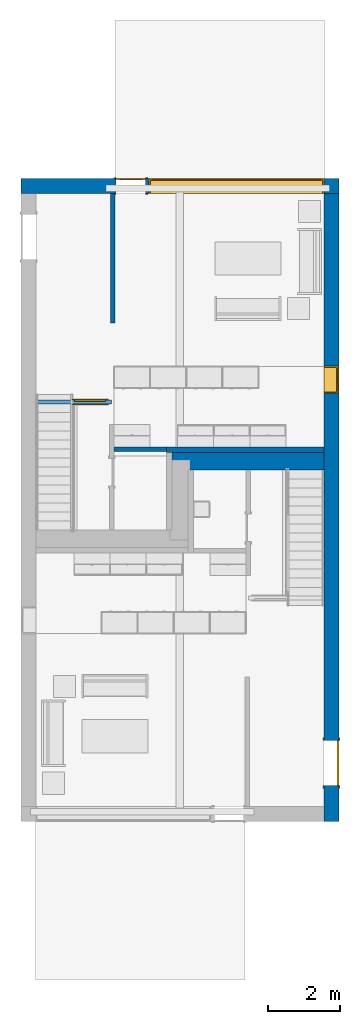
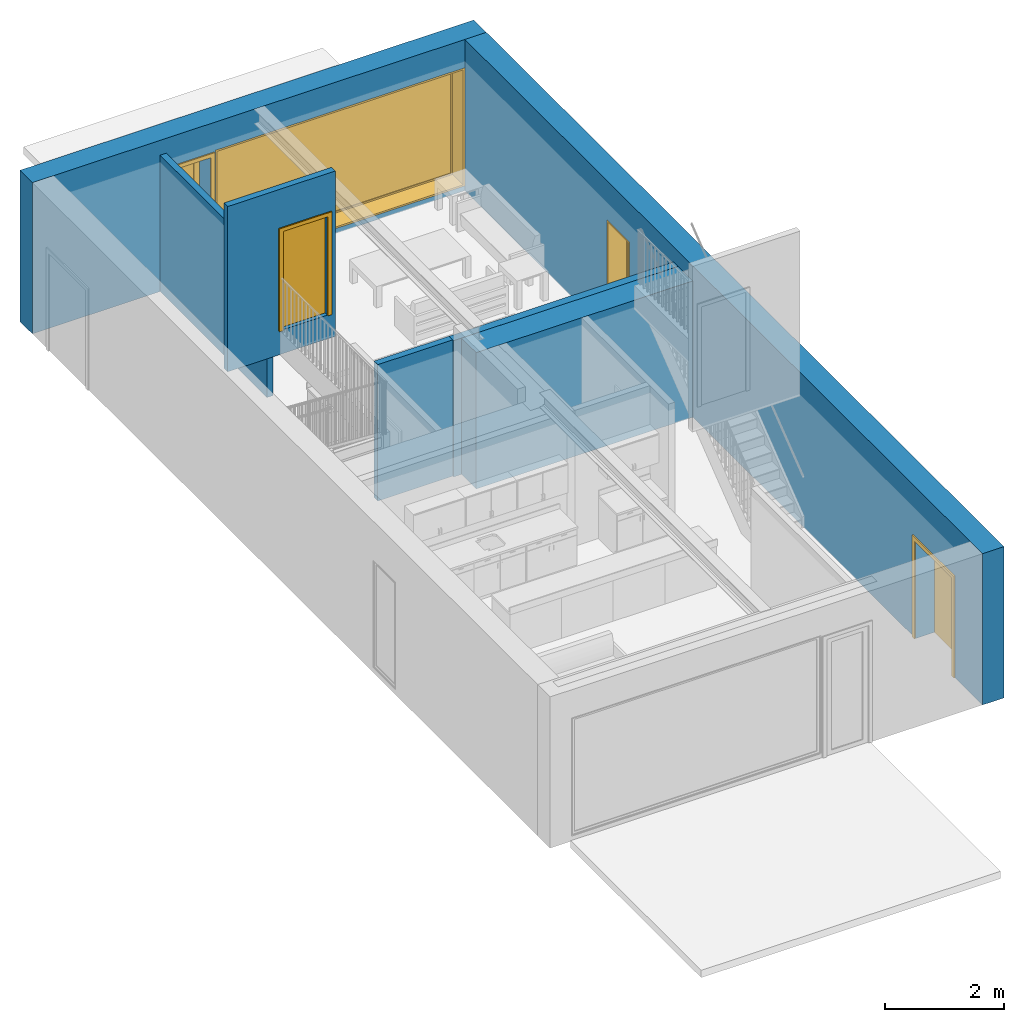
"""IFC4 building model written with IfcOpenShell, lengths in metres."""

from ifc_helpers import new_model, entity, si_unit, converted_unit, frame, frame_2d, origin, origin_2d_with_axis, place, context, project, spatial, polyline, rectangle, outline, extrude, clip, bounded_halfspace, source, transform, mapped, material, layer, layer_set, layer_usage, type_object, type_shapes, element, fill, save


model = new_model("IFC4")

# Units and contexts
model_context = context("Model", 3, precision=1e-09, world=origin())
plan_context = context("Plan", 3, precision=1e-09, world=origin())
ifc_project = project(units=[si_unit("LENGTHUNIT", "METRE"), si_unit("AREAUNIT", "SQUARE_METRE"), si_unit("VOLUMEUNIT", "CUBIC_METRE"), converted_unit("PLANEANGLEUNIT", "DEGREE", entity("IfcRatioMeasure", 0.01745329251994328), si_unit("PLANEANGLEUNIT", "RADIAN"), dimensions=[0, 0, 0, 0, 0, 0, 0]), si_unit("TIMEUNIT", "SECOND")], contexts=[model_context, plan_context])

# Site, building, storey
site_placement = place(None, origin())
site = spatial("IfcSite", under=ifc_project, at=site_placement, Name="Default", CompositionType="ELEMENT")
building_placement = place(site_placement, origin())
building = spatial("IfcBuilding", under=site, at=building_placement, CompositionType="ELEMENT")
storey_1_placement = place(building_placement, origin())
storey_1 = spatial("IfcBuildingStorey", under=building, at=storey_1_placement, Name="Level 1", CompositionType="ELEMENT", Elevation=0.0)

# Wall, opening
ifc_material_1 = material(Name="Plasterboard")
ifc_layer_1 = layer(ifc_material_1, 0.016)
ifc_material_2 = material(Name="Metal - Stud Layer")
ifc_layer_2 = layer(ifc_material_2, 0.092)
ifc_layer_3 = layer(ifc_material_1, 0.016)
ifc_layer_set_1 = layer_set([ifc_layer_1, ifc_layer_2, ifc_layer_3], Name="Basic Wall:Interior - Partition (92mm Stud)")
ifc_layer_usage_1 = layer_usage(ifc_layer_set_1, "AXIS2", "NEGATIVE", 0.062)
wall_1_placement = place(storey_1_placement, frame((0.4169999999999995, -6.188000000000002, 2.612)))
wall_1 = element("IfcWall", 1, at=wall_1_placement, inside=storey_1, material=ifc_layer_usage_1, Name="Basic Wall:Interior - Partition (92mm Stud)", ObjectType="Basic Wall:Interior - Partition (92mm Stud)", PredefinedType="SOLIDWALL", context=model_context, shape_type="SweptSolid", body=[
    extrude(rectangle(XDim=2.089000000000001, YDim=0.124, at=frame_2d((1.0445, 0.0), x_axis=(-1.0, 0.0))), origin(), (0.0, 0.0, 1.0), 3.388000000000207),
])
opening_1_placement = place(wall_1_placement, frame((1.066299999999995, -0.06200000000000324, 0.4880000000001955)))
opening_1 = element("IfcOpeningElement", 2, at=opening_1_placement, cuts=wall_1, Name="M_Single-Flush:0864 x 2032mm:0864 x 2032mm:1", ObjectType="Opening", context=model_context, shape_type="SweptSolid", body=[
    extrude(rectangle(XDim=0.8639999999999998, YDim=2.032, at=frame_2d((1.016, 0.4319999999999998), x_axis=(0.0, 1.0))), frame((0.0, 0.0, 0.0), z_axis=(0.0, 1.0, 0.0), x_axis=(0.0, 0.0, 1.0)), (0.0, 0.0, 1.0), 0.124),
])

# Storey
storey_2_placement = place(building_placement, frame((0.0, 0.0, 3.100000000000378)))
storey_2 = spatial("IfcBuildingStorey", under=building, at=storey_2_placement, Name="Level 2", CompositionType="ELEMENT", Elevation=3.100000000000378)

# Door
door_type_1 = type_object("IfcDoorType", Name="0864 x 2032mm", OperationType="SINGLE_SWING_RIGHT", ParameterTakesPrecedence=False, PredefinedType="DOOR")
shared_shape_1 = source(origin(), model_context, "Body", "SweptSolid", [
    extrude(outline(polyline([(-0.5079999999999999, -1.072999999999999), (0.5079999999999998, -1.072999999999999), (0.5079999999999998, 1.035000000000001), (0.4319999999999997, 1.035000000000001), (0.4319999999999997, -0.9970000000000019), (-0.4319999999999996, -0.9970000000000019), (-0.4319999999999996, 1.035000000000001), (-0.5079999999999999, 1.035000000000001), (-0.5079999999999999, -1.072999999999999)])), frame((0.4320000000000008, 0.1239999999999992, 1.035000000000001), z_axis=(0.0, 1.0, 0.0), x_axis=(1.0, 0.0, 0.0)), (0.0, 0.0, 1.0), 0.02499999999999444),
    extrude(outline(polyline([(-1.073, -0.5079999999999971), (1.035, -0.5079999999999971), (1.035, -0.4320000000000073), (-0.9969999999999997, -0.4320000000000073), (-0.9969999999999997, 0.4320000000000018), (1.035, 0.4320000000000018), (1.035, 0.5080000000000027), (-1.073, 0.5080000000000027), (-1.073, -0.5079999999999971)])), frame((0.4320000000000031, -0.02500000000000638, 1.035), z_axis=(0.0, 1.0, 0.0), x_axis=(0.0, 0.0, -1.0)), (0.0, 0.0, 1.0), 0.02500000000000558),
    extrude(rectangle(XDim=0.051, YDim=0.8639999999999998, at=origin_2d_with_axis()), frame((0.4320000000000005, 0.0984999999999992, 0.0), z_axis=(0.0, 0.0, 1.0), x_axis=(0.0, 1.0, 0.0)), (0.0, 0.0, 1.0), 2.032),
])
type_shapes(door_type_1, [shared_shape_1])
door_1_placement = place(opening_1_placement, origin())
door_1 = element("IfcDoor", 3, at=door_1_placement, inside=storey_2, type_object=door_type_1, Name="M_Single-Flush:0864 x 2032mm:0864 x 2032mm", ObjectType="0864 x 2032mm", OverallHeight=2.032, OverallWidth=0.8639999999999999, context=model_context, shape_type="MappedRepresentation", body=[
    mapped(shared_shape_1, transform((0.0, 0.0, 0.0), scale=1.0)),
])

fill(opening_1, door_1)

# Walls
ifc_layer_4 = layer(ifc_material_2, 0.136)
ifc_layer_5 = layer(ifc_material_1, 0.016)
ifc_layer_set_2 = layer_set([ifc_layer_4, ifc_layer_5], Name="Basic Wall:Interior - Furring (152 mm Stud)")
ifc_layer_usage_2 = layer_usage(ifc_layer_set_2, "AXIS2", "NEGATIVE", 0.07600000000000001)
wall_2_placement = place(storey_1_placement, frame((8.382999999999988, -7.506000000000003, 0.0), z_axis=(0.0, 0.0, 1.0), x_axis=(-1.0, 0.0, 0.0)))
element("IfcWall", 4, at=wall_2_placement, inside=storey_1, material=ifc_layer_usage_2, Name="Basic Wall:Interior - Furring (152 mm Stud)", ObjectType="Basic Wall:Interior - Furring (152 mm Stud)", PredefinedType="SOLIDWALL", context=model_context, shape_type="Clipping", body=[
    clip(extrude(rectangle(XDim=4.352999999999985, YDim=0.1520000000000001, at=frame_2d((2.176499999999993, 0.0), x_axis=(-1.0, 0.0))), origin(), (0.0, 0.0, 1.0), 2.795000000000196), bounded_halfspace(frame((0.0, -0.07600000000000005, 2.795000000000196), z_axis=(0.0, 0.0, -1.0), x_axis=(0.0, 1.0, 0.0)), True, frame((0.0, -0.07600000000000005, 2.795000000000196)), polyline([(0.0, 0.0), (3.707999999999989, 0.0), (3.707999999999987, 0.1520000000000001), (0.0, 0.1520000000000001), (0.0, 0.0)]))),
])
ifc_layer_usage_3 = layer_usage(ifc_layer_set_1, "AXIS2", "NEGATIVE", 0.062)
wall_3_placement = place(storey_1_placement, frame((4.030000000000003, -7.491999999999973, 0.0), z_axis=(0.0, 0.0, 1.0), x_axis=(-1.0, 0.0, 0.0)))
element("IfcWall", 5, at=wall_3_placement, inside=storey_1, material=ifc_layer_usage_3, Name="Basic Wall:Interior - Partition (92mm Stud)", ObjectType="Basic Wall:Interior - Partition (92mm Stud)", PredefinedType="SOLIDWALL", context=model_context, shape_type="SweptSolid", body=[
    extrude(rectangle(XDim=1.456000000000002, YDim=0.124, at=frame_2d((0.728000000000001, 0.0), x_axis=(-1.0, 0.0))), origin(), (0.0, 0.0, 1.0), 2.795000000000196),
])
ifc_layer_6 = layer(ifc_material_1, 0.016)
ifc_layer_7 = layer(ifc_material_2, 0.041)
ifc_material_3 = material(Name="Masonry - Concrete Block")
ifc_layer_8 = layer(ifc_material_3, 0.193)
ifc_material_4 = material(Name="Misc. Air Layers - Air Space")
ifc_layer_9 = layer(ifc_material_4, 0.05)
ifc_layer_10 = layer(ifc_material_3, 0.193)
ifc_layer_11 = layer(ifc_material_2, 0.041)
ifc_layer_12 = layer(ifc_material_1, 0.016)
ifc_layer_set_3 = layer_set([ifc_layer_6, ifc_layer_7, ifc_layer_8, ifc_layer_9, ifc_layer_10, ifc_layer_11, ifc_layer_12], Name="Basic Wall:Party Wall - CMU Residential Unit Dimising Wall")
ifc_layer_usage_4 = layer_usage(ifc_layer_set_3, "AXIS2", "NEGATIVE", 0.2750000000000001)
wall_4_placement = place(storey_1_placement, frame((8.382999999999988, -7.800000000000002, 0.0), z_axis=(0.0, 0.0, 1.0), x_axis=(-1.0, 0.0, 0.0)))
element("IfcWall", 6, at=wall_4_placement, inside=storey_1, material=ifc_layer_usage_4, Name="Basic Wall:Party Wall - CMU Residential Unit Dimising Wall", ObjectType="Basic Wall:Party Wall - CMU Residential Unit Dimising Wall", PredefinedType="SOLIDWALL", context=model_context, shape_type="Clipping", body=[
    clip(clip(extrude(rectangle(XDim=4.200999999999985, YDim=0.5500000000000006, at=frame_2d((2.100499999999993, 0.0), x_axis=(-1.0, 0.0))), origin(), (0.0, 0.0, 1.0), 2.795000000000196), bounded_halfspace(frame((0.0, -0.2180000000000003, 2.795000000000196), z_axis=(0.0, 1.0, 0.0), x_axis=(-1.0, 0.0, 0.0)), True, frame((0.0, -0.2180000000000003, 2.795000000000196), z_axis=(0.0, 1.0, 0.0), x_axis=(-1.0, 0.0, 0.0)), polyline([(0.0, 0.0), (-3.707999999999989, 0.0), (-4.200999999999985, 0.0), (-4.200999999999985, -2.795000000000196), (0.0, -2.795000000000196), (0.0, 0.0)]))), bounded_halfspace(frame((4.200999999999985, 0.2750000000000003, 0.0), z_axis=(-1.0, 0.0, 0.0), x_axis=(0.0, -1.0, 0.0)), True, frame((4.200999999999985, 0.2750000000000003, 0.0), z_axis=(-1.0, 0.0, 0.0), x_axis=(0.0, -1.0, 0.0)), polyline([(0.0, 0.0), (0.4930000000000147, 0.0), (0.4930000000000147, 2.795000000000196), (0.0, 2.795000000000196), (0.0, 0.0)]))),
])

# Wall, openings, door, window
ifc_material_5 = material(Name="Masonry - Brick")
ifc_layer_13 = layer(ifc_material_5, 0.092)
ifc_layer_14 = layer(ifc_material_4, 0.025)
ifc_material_6 = material(Name="Insulation / Thermal Barriers - Rigid insulation")
ifc_layer_15 = layer(ifc_material_6, 0.05)
ifc_layer_16 = layer(ifc_material_3, 0.193)
ifc_layer_17 = layer(ifc_material_2, 0.041)
ifc_layer_18 = layer(ifc_material_1, 0.016)
ifc_layer_set_4 = layer_set([ifc_layer_13, ifc_layer_14, ifc_layer_15, ifc_layer_16, ifc_layer_17, ifc_layer_18], Name="Basic Wall:Exterior - Brick on Block")
ifc_layer_usage_5 = layer_usage(ifc_layer_set_4, "AXIS2", "NEGATIVE", 0.2085000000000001)
wall_5_placement = place(storey_1_placement, frame((0.0, -0.2085000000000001, 0.0)))
wall_5 = element("IfcWall", 7, at=wall_5_placement, inside=storey_1, material=ifc_layer_usage_5, Name="Basic Wall:Exterior - Brick on Block", ObjectType="Basic Wall:Exterior - Brick on Block", PredefinedType="SOLIDWALL", context=model_context, shape_type="SweptSolid", body=[
    extrude(rectangle(XDim=8.800000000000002, YDim=0.4170000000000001, at=frame_2d((4.400000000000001, 0.0), x_axis=(-1.0, 0.0))), origin(), (0.0, 0.0, 1.0), 3.100000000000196),
])
opening_2_placement = place(wall_5_placement, frame((2.634969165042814, -0.2084999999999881, 0.0)))
opening_2 = element("IfcOpeningElement", 8, at=opening_2_placement, cuts=wall_5, Name="M_Single-Glass 1:0813 x 2420mm:0813 x 2420mm:1", ObjectType="Opening", context=model_context, shape_type="SweptSolid", body=[
    extrude(rectangle(XDim=0.8129999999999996, YDim=2.42, at=frame_2d((1.21, 0.4065000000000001), x_axis=(0.0, -1.0))), frame((0.0, 0.0, 0.0), z_axis=(0.0, 1.0, 0.0), x_axis=(0.0, 0.0, 1.0)), (0.0, 0.0, 1.0), 0.4170000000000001),
])
opening_3_placement = place(wall_5_placement, frame((3.548000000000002, -0.2085000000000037, 0.1000000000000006)))
opening_3 = element("IfcOpeningElement", 9, at=opening_3_placement, cuts=wall_5, Name="M_Fixed:4835mm x 2420mm:4835mm x 2420mm:1", ObjectType="Opening", context=model_context, shape_type="SweptSolid", body=[
    extrude(rectangle(XDim=2.419999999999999, YDim=4.834999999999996, at=frame_2d((1.209999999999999, 2.417499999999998), x_axis=(1.0, 0.0))), frame((0.0, 0.0, 0.0), z_axis=(0.0, 1.0, 0.0), x_axis=(0.0, 0.0, 1.0)), (0.0, 0.0, 1.0), 0.4170000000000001),
])
door_type_2 = type_object("IfcDoorType", Name="0813 x 2420mm", OperationType="SINGLE_SWING_LEFT", ParameterTakesPrecedence=False, PredefinedType="DOOR")
shared_shape_2 = source(origin(), model_context, "Body", "SweptSolid", [
    extrude(outline(polyline([(-0.4065000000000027, -1.191), (-0.4065000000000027, 1.229), (-0.4824999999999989, 1.229), (-0.4824999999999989, -1.267), (0.4825000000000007, -1.267), (0.4825000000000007, 1.229), (0.4065000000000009, 1.229), (0.4065000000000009, -1.191), (-0.4065000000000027, -1.191)])), frame((0.4065, 0.0, 1.229), z_axis=(0.0, 1.0, 0.0), x_axis=(1.0, 0.0, 0.0)), (0.0, 0.0, -1.0), 0.025),
    extrude(outline(polyline([(-0.4065000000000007, -1.191), (-0.4065000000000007, 1.228999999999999), (-0.4824999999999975, 1.228999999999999), (-0.4824999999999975, -1.267), (0.4824999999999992, -1.267), (0.4824999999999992, 1.228999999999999), (0.4064999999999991, 1.228999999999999), (0.4064999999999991, -1.191), (-0.4065000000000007, -1.191)])), frame((0.4065000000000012, 0.4420000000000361, 1.228999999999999), z_axis=(0.0, 1.0, 0.0), x_axis=(1.0, 0.0, 0.0)), (0.0, 0.0, -1.0), 0.02500000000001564),
    extrude(rectangle(XDim=0.6089999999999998, YDim=0.006350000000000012, at=origin_2d_with_axis()), frame((0.4065000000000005, 0.3916000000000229, 0.1020000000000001)), (0.0, 0.0, 1.0), 2.215999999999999),
    extrude(outline(polyline([(-1.21, -0.4064999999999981), (1.21, -0.4064999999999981), (1.21, 0.4064999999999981), (-1.21, 0.4064999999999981), (-1.21, -0.4064999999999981)]), holes=[polyline([(-1.108, 0.3044999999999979), (1.107999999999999, 0.3044999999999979), (1.107999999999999, -0.3045000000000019), (-1.108, -0.3045000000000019), (-1.108, 0.3044999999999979)])]), frame((0.4065000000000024, 0.4170000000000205, 1.21), z_axis=(0.0, -1.0, 0.0), x_axis=(0.0, 0.0, -1.0)), (0.0, 0.0, 1.0), 0.05100000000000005),
])
type_shapes(door_type_2, [shared_shape_2])
door_2_placement = place(opening_2_placement, origin())
door_2 = element("IfcDoor", 10, at=door_2_placement, inside=storey_1, type_object=door_type_2, Name="M_Single-Glass 1:0813 x 2420mm:0813 x 2420mm", ObjectType="0813 x 2420mm", OverallHeight=2.42, OverallWidth=0.8129999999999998, context=model_context, shape_type="MappedRepresentation", body=[
    mapped(shared_shape_2, transform((0.0, 0.0, 0.0), scale=1.0)),
])
fill(opening_2, door_2)
window_type_1 = type_object("IfcWindowType", Name="4835mm x 2420mm", ParameterTakesPrecedence=False, PartitioningType="NOTDEFINED", PredefinedType="WINDOW")
shared_shape_3 = source(origin(), model_context, "Body", "SweptSolid", [
    extrude(rectangle(XDim=0.01199999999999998, YDim=4.708999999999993, at=origin_2d_with_axis()), frame((2.417500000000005, 0.3759999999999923, 0.06299999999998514), z_axis=(0.0, 0.0, 1.0), x_axis=(0.0, -1.0, 0.0)), (0.0, 0.0, 1.0), 2.294000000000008),
    extrude(outline(polyline([(-2.398499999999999, -1.191000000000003), (2.398499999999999, -1.191000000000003), (2.398499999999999, 1.191000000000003), (-2.398499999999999, 1.191000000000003), (-2.398499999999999, -1.191000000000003)]), holes=[polyline([(-2.354499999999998, -1.147000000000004), (-2.354499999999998, 1.147000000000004), (2.354499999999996, 1.147000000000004), (2.354499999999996, -1.147000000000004), (-2.354499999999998, -1.147000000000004)])]), frame((2.417500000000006, 0.3539999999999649, 1.20999999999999), z_axis=(0.0, 1.0, 0.0), x_axis=(1.0, 0.0, 0.0)), (0.0, 0.0, 1.0), 0.04400000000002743),
    extrude(outline(polyline([(-2.417499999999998, -1.209999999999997), (2.417499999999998, -1.209999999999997), (2.417499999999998, 1.209999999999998), (-2.417499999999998, 1.209999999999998), (-2.417499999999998, -1.209999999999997)]), holes=[polyline([(-2.3985, -1.190999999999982), (-2.3985, 1.191000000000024), (2.398499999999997, 1.191000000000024), (2.398499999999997, -1.190999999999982), (-2.3985, -1.190999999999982)])]), frame((2.417500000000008, 0.3539999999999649, 1.21000000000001), z_axis=(0.0, 1.0, 0.0), x_axis=(1.0, 0.0, 0.0)), (0.0, 0.0, 1.0), 0.06300000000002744),
    extrude(outline(polyline([(-2.417499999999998, -1.209999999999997), (2.417499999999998, -1.209999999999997), (2.417499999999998, 1.209999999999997), (-2.417499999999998, 1.209999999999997), (-2.417499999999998, -1.209999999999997)]), holes=[polyline([(-2.385499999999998, -1.177999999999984), (-2.385499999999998, 1.178000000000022), (2.385499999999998, 1.178000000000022), (2.385499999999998, -1.177999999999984), (-2.385499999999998, -1.177999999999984)])]), frame((2.417500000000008, 0.0, 1.21000000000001), z_axis=(0.0, 1.0, 0.0), x_axis=(1.0, 0.0, 0.0)), (0.0, 0.0, 1.0), 0.3539999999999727),
])
type_shapes(window_type_1, [shared_shape_3])
window_1_placement = place(opening_3_placement, origin())
window_1 = element("IfcWindow", 11, at=window_1_placement, inside=storey_1, type_object=window_type_1, Name="M_Fixed:4835mm x 2420mm:4835mm x 2420mm", ObjectType="4835mm x 2420mm", OverallHeight=2.419999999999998, OverallWidth=4.834999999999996, context=model_context, shape_type="MappedRepresentation", body=[
    mapped(shared_shape_3, transform((0.0, 0.0, 0.0), scale=1.0)),
])
fill(opening_3, window_1)

ifc_layer_usage_6 = layer_usage(ifc_layer_set_4, "AXIS2", "NEGATIVE", 0.2085000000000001)
wall_6_placement = place(storey_1_placement, frame((8.5915, -0.4170000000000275, 0.0), z_axis=(0.0, 0.0, 1.0), x_axis=(0.0, -1.0, 0.0)))
wall_6 = element("IfcWall", 12, at=wall_6_placement, inside=storey_1, material=ifc_layer_usage_6, Name="Basic Wall:Exterior - Brick on Block", ObjectType="Basic Wall:Exterior - Brick on Block", PredefinedType="SOLIDWALL", context=model_context, shape_type="SweptSolid", body=[
    extrude(rectangle(XDim=17.38299999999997, YDim=0.4170000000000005, at=frame_2d((8.691499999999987, 0.0), x_axis=(-1.0, 0.0))), origin(), (0.0, 0.0, 1.0), 3.100000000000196),
])
opening_4_placement = place(wall_6_placement, frame((4.777999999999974, -0.2085000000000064, 0.1000000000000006)))
opening_4 = element("IfcOpeningElement", 13, at=opening_4_placement, cuts=wall_6, Name="M_Fixed:750mm x 2200mm:750mm x 2200mm:1", ObjectType="Opening", context=model_context, shape_type="SweptSolid", body=[
    extrude(rectangle(XDim=2.199999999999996, YDim=0.7499999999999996, at=frame_2d((1.099999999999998, 0.3749999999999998), x_axis=(1.0, 0.0))), frame((0.0, 0.0, 0.0), z_axis=(0.0, 1.0, 0.0), x_axis=(0.0, 0.0, 1.0)), (0.0, 0.0, 1.0), 0.4170000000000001),
])
opening_5_placement = place(wall_6_placement, frame((15.13599999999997, -0.2085000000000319, 0.0)))
opening_5 = element("IfcOpeningElement", 14, at=opening_5_placement, cuts=wall_6, Name="M_Single-Flush:1250mm x 2010mm:1250mm x 2010mm:1", ObjectType="Opening", context=model_context, shape_type="SweptSolid", body=[
    extrude(rectangle(XDim=1.249999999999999, YDim=2.009999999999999, at=frame_2d((1.005, 0.6249999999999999), x_axis=(0.0, 1.0))), frame((0.0, 0.0, 0.0), z_axis=(0.0, 1.0, 0.0), x_axis=(0.0, 0.0, 1.0)), (0.0, 0.0, 1.0), 0.4170000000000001),
])
door_type_3 = type_object("IfcDoorType", Name="1250mm x 2010mm", OperationType="SINGLE_SWING_RIGHT", ParameterTakesPrecedence=False, PredefinedType="DOOR")
shared_shape_4 = source(origin(), model_context, "Body", "SweptSolid", [
    extrude(outline(polyline([(-0.7009999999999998, -1.061999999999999), (0.7009999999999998, -1.061999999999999), (0.7009999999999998, 1.024), (0.6249999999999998, 1.024), (0.6249999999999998, -0.9860000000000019), (-0.6249999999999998, -0.9860000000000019), (-0.6249999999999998, 1.024), (-0.7009999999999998, 1.024), (-0.7009999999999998, -1.061999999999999)])), frame((0.6250000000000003, 0.4169999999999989, 1.024), z_axis=(0.0, 1.0, 0.0), x_axis=(1.0, 0.0, 0.0)), (0.0, 0.0, 1.0), 0.02499999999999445),
    extrude(outline(polyline([(-1.062, -0.7009999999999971), (1.024, -0.7009999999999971), (1.024, -0.6250000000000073), (-0.9859999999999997, -0.6250000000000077), (-0.9859999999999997, 0.6250000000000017), (1.024, 0.6250000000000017), (1.024, 0.7010000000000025), (-1.062, 0.7010000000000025), (-1.062, -0.7009999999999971)])), frame((0.6250000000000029, -0.02500000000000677, 1.024), z_axis=(0.0, 1.0, 0.0), x_axis=(0.0, 0.0, -1.0)), (0.0, 0.0, 1.0), 0.02500000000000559),
    extrude(rectangle(XDim=0.05100000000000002, YDim=1.25, at=origin_2d_with_axis()), frame((0.6250000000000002, 0.3914999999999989, 0.0), z_axis=(0.0, 0.0, 1.0), x_axis=(0.0, 1.0, 0.0)), (0.0, 0.0, 1.0), 2.009999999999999),
])
type_shapes(door_type_3, [shared_shape_4])
door_3_placement = place(opening_5_placement, origin())
door_3 = element("IfcDoor", 15, at=door_3_placement, inside=storey_1, type_object=door_type_3, Name="M_Single-Flush:1250mm x 2010mm:1250mm x 2010mm", ObjectType="1250mm x 2010mm", OverallHeight=2.009999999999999, OverallWidth=1.25, context=model_context, shape_type="MappedRepresentation", body=[
    mapped(shared_shape_4, transform((0.0, 0.0, 0.0), scale=1.0)),
])
fill(opening_5, door_3)
window_type_2 = type_object("IfcWindowType", Name="750mm x 2200mm", ParameterTakesPrecedence=False, PartitioningType="NOTDEFINED", PredefinedType="WINDOW")
shared_shape_5 = source(origin(), model_context, "Body", "SweptSolid", [
    extrude(rectangle(XDim=0.01199999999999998, YDim=0.623999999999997, at=origin_2d_with_axis()), frame((0.375000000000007, 0.3759999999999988, 0.06299999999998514), z_axis=(0.0, 0.0, 1.0), x_axis=(0.0, -1.0, 0.0)), (0.0, 0.0, 1.0), 2.074000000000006),
    extrude(outline(polyline([(-0.3559999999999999, -1.081000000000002), (0.3559999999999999, -1.081000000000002), (0.3559999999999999, 1.081000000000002), (-0.3559999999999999, 1.081000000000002), (-0.3559999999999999, -1.081000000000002)]), holes=[polyline([(-0.3119999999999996, -1.037000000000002), (-0.3119999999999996, 1.037000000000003), (0.3119999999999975, 1.037000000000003), (0.3119999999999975, -1.037000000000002), (-0.3119999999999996, -1.037000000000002)])]), frame((0.3750000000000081, 0.3539999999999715, 1.099999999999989), z_axis=(0.0, 1.0, 0.0), x_axis=(1.0, 0.0, 0.0)), (0.0, 0.0, 1.0), 0.04400000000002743),
    extrude(outline(polyline([(-0.3749999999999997, -1.099999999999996), (0.3749999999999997, -1.099999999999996), (0.3749999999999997, 1.099999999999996), (-0.3749999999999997, 1.099999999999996), (-0.3749999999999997, -1.099999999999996)]), holes=[polyline([(-0.3560000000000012, -1.080999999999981), (-0.3560000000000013, 1.081000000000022), (0.3559999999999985, 1.081000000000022), (0.3559999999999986, -1.080999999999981), (-0.3560000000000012, -1.080999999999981)])]), frame((0.3750000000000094, 0.3539999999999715, 1.100000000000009), z_axis=(0.0, 1.0, 0.0), x_axis=(1.0, 0.0, 0.0)), (0.0, 0.0, 1.0), 0.06300000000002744),
    extrude(outline(polyline([(-0.3750000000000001, -1.099999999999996), (0.3750000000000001, -1.099999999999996), (0.3750000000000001, 1.099999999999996), (-0.3750000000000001, 1.099999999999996), (-0.3750000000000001, -1.099999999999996)]), holes=[polyline([(-0.3429999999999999, -1.067999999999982), (-0.3429999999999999, 1.06800000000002), (0.3430000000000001, 1.06800000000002), (0.3430000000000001, -1.067999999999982), (-0.3429999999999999, -1.067999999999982)])]), frame((0.3750000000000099, 0.0, 1.100000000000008), z_axis=(0.0, 1.0, 0.0), x_axis=(1.0, 0.0, 0.0)), (0.0, 0.0, 1.0), 0.3539999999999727),
])
type_shapes(window_type_2, [shared_shape_5])
window_2_placement = place(opening_4_placement, origin())
window_2 = element("IfcWindow", 16, at=window_2_placement, inside=storey_1, type_object=window_type_2, Name="M_Fixed:750mm x 2200mm:750mm x 2200mm", ObjectType="750mm x 2200mm", OverallHeight=2.199999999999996, OverallWidth=0.7499999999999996, context=model_context, shape_type="MappedRepresentation", body=[
    mapped(shared_shape_5, transform((0.0, 0.0, 0.0), scale=1.0)),
])
fill(opening_4, window_2)

# Wall
ifc_layer_usage_7 = layer_usage(ifc_layer_set_1, "AXIS2", "NEGATIVE", 0.062)
wall_7_placement = place(storey_1_placement, frame((2.538, -0.4170000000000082, 0.0), z_axis=(0.0, 0.0, 1.0), x_axis=(0.0, -1.0, 0.0)))
element("IfcWall", 17, at=wall_7_placement, inside=storey_1, material=ifc_layer_usage_7, Name="Basic Wall:Interior - Partition (92mm Stud)", ObjectType="Basic Wall:Interior - Partition (92mm Stud)", PredefinedType="SOLIDWALL", context=model_context, shape_type="SweptSolid", body=[
    extrude(rectangle(XDim=3.582999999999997, YDim=0.124, at=frame_2d((1.791499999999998, 0.0), x_axis=(-1.0, 0.0))), origin(), (0.0, 0.0, 1.0), 2.795000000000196),
])

save(model, "model.ifc")
